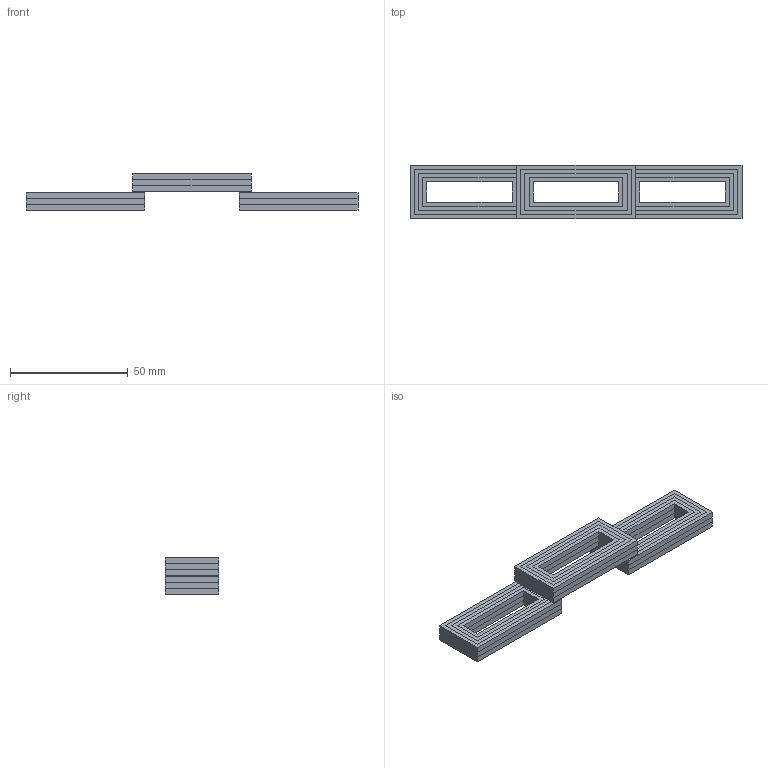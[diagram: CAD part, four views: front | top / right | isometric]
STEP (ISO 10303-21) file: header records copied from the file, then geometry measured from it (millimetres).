
FILE_DESCRIPTION(('Open CASCADE Model'),'2;1');
FILE_NAME('Open CASCADE Shape Model','1970-01-01T00:00:00',('Author'),( 'Open CASCADE'),'Open CASCADE STEP processor 7.7','Open CASCADE 7.7' ,'Unknown');
FILE_SCHEMA(('AUTOMOTIVE_DESIGN { 1 0 10303 214 1 1 1 1 }'));
Length unit declared in the file: millimetre
Products named in the file (37): Open CASCADE STEP translator 7.7 2; Open CASCADE STEP translator 7.7 2.1; Open CASCADE STEP translator 7.7 2.2; Open CASCADE STEP translator 7.7 2.3; Open CASCADE STEP translator 7.7 2.4; Open CASCADE STEP translator 7.7 2.5; Open CASCADE STEP translator 7.7 2.6; Open CASCADE STEP translator 7.7 2.7; Open CASCADE STEP translator 7.7 2.8; Open CASCADE STEP translator 7.7 2.9; Open CASCADE STEP translator 7.7 2.10; Open CASCADE STEP translator 7.7 2.11; Open CASCADE STEP translator 7.7 2.12; Open CASCADE STEP translator 7.7 2.13; Open CASCADE STEP translator 7.7 2.14; Open CASCADE STEP translator 7.7 2.15; Open CASCADE STEP translator 7.7 2.16; Open CASCADE STEP translator 7.7 2.17; Open CASCADE STEP translator 7.7 2.18; Open CASCADE STEP translator 7.7 2.19; Open CASCADE STEP translator 7.7 2.20; Open CASCADE STEP translator 7.7 2.21; Open CASCADE STEP translator 7.7 2.22; Open CASCADE STEP translator 7.7 2.23; Open CASCADE STEP translator 7.7 2.24; Open CASCADE STEP translator 7.7 2.25; Open CASCADE STEP translator 7.7 2.26; Open CASCADE STEP translator 7.7 2.27; Open CASCADE STEP translator 7.7 2.28; Open CASCADE STEP translator 7.7 2.29; Open CASCADE STEP translator 7.7 2.30; Open CASCADE STEP translator 7.7 2.31; Open CASCADE STEP translator 7.7 2.32; Open CASCADE STEP translator 7.7 2.33; Open CASCADE STEP translator 7.7 2.34; Open CASCADE STEP translator 7.7 2.35; Open CASCADE STEP translator 7.7 2.36
Assembly tree (36 placements, depth 2):
  Open CASCADE STEP translator 7.7 2
    Open CASCADE STEP translator 7.7 2.1
    Open CASCADE STEP translator 7.7 2.2
    Open CASCADE STEP translator 7.7 2.3
    Open CASCADE STEP translator 7.7 2.4
    Open CASCADE STEP translator 7.7 2.5
    Open CASCADE STEP translator 7.7 2.6
    Open CASCADE STEP translator 7.7 2.7
    Open CASCADE STEP translator 7.7 2.8
    Open CASCADE STEP translator 7.7 2.9
    Open CASCADE STEP translator 7.7 2.10
    Open CASCADE STEP translator 7.7 2.11
    Open CASCADE STEP translator 7.7 2.12
    Open CASCADE STEP translator 7.7 2.13
    Open CASCADE STEP translator 7.7 2.14
    Open CASCADE STEP translator 7.7 2.15
    Open CASCADE STEP translator 7.7 2.16
    Open CASCADE STEP translator 7.7 2.17
    Open CASCADE STEP translator 7.7 2.18
    Open CASCADE STEP translator 7.7 2.19
    Open CASCADE STEP translator 7.7 2.20
    Open CASCADE STEP translator 7.7 2.21
    Open CASCADE STEP translator 7.7 2.22
    Open CASCADE STEP translator 7.7 2.23
    Open CASCADE STEP translator 7.7 2.24
    Open CASCADE STEP translator 7.7 2.25
    Open CASCADE STEP translator 7.7 2.26
    Open CASCADE STEP translator 7.7 2.27
    Open CASCADE STEP translator 7.7 2.28
    Open CASCADE STEP translator 7.7 2.29
    Open CASCADE STEP translator 7.7 2.30
    Open CASCADE STEP translator 7.7 2.31
    Open CASCADE STEP translator 7.7 2.32
    Open CASCADE STEP translator 7.7 2.33
    Open CASCADE STEP translator 7.7 2.34
    Open CASCADE STEP translator 7.7 2.35
    Open CASCADE STEP translator 7.7 2.36
Bounding box: 141.1 x 22.91 x 15.56 mm (x, y, z)
Volume: 18674.3 mm3; surface area: 36237.1 mm2
Topology: 36 solids, 36 shells, 360 faces, 864 edges, 576 vertices
Faces by surface type: plane 360
Entity records: 21616 total; most frequent: CARTESIAN_POINT 4141, DIRECTION 2810, LINE 2016, VECTOR 2016, ORIENTED_EDGE 1728, PCURVE 1728, DEFINITIONAL_REPRESENTATION 1728, EDGE_CURVE 864
